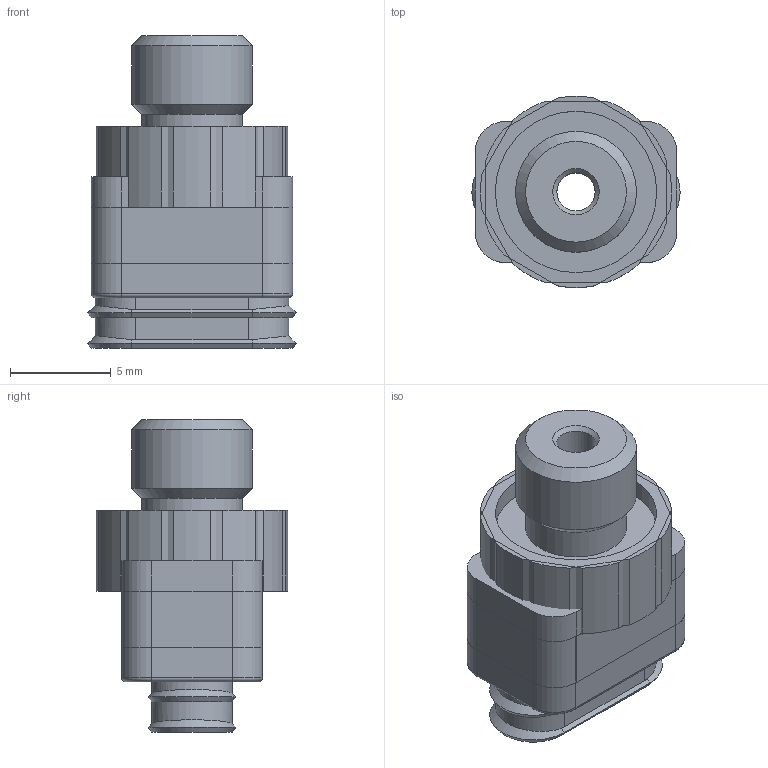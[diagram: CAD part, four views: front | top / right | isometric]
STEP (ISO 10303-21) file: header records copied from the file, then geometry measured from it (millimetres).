
FILE_DESCRIPTION( ( 'Unknown' ), '1' );
FILE_NAME( 'C:/Documents and Settings/owner/官帕 拳搁/MISUMI/PAD/VOU/VOU 4X10-N-M6M.stp', 'Unknown', ( 'Unknown' ), ( 'Unknown' ), 'XStep 1.0', 'Unknown', ' ' );
FILE_SCHEMA( ( 'automotive_design' ) );
Length unit declared in the file: millimetre
Products named in the file (3): Assem1; 4X10_STP; VOU M6M
Bounding box: 10.33 x 9.48 x 15.5 mm (x, y, z)
Volume: 1417.1 mm3; surface area: 1804.1 mm2
Topology: 4 solids, 4 shells, 120 faces, 284 edges, 178 vertices
Faces by surface type: plane 54, cylinder 44, cone 14, torus 8
Full cylindrical faces by diameter (mm): 1.9 x2, 3 x2, 3.1 x2, 5 x2, 6 x2, 8 x2
Entity records: 2044 total; most frequent: CARTESIAN_POINT 339, DIRECTION 314, ORIENTED_EDGE 262, EDGE_CURVE 131, AXIS2_PLACEMENT_3D 122, VERTEX_POINT 87, EDGE_LOOP 76, LINE 70
